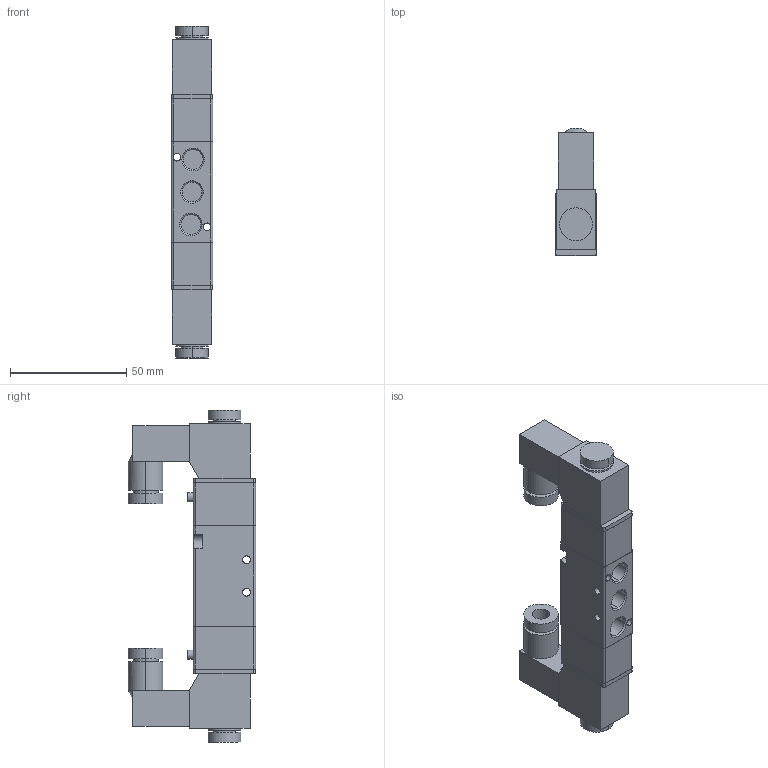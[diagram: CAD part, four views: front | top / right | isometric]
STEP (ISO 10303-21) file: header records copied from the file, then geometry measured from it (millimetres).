
FILE_DESCRIPTION (( 'STEP AP203' ), '1' );
FILE_NAME ('VB5-D01.STEP', '2020-04-15T16:58:58', ( '' ), ( '' ), 'SwSTEP 2.0', 'SolidWorks 2019', '' );
FILE_SCHEMA (( 'CONFIG_CONTROL_DESIGN' ));
Length unit declared in the file: millimetre
Products named in the file (1): VB5-D01
Bounding box: 18 x 55 x 143 mm (x, y, z)
Volume: 75320 mm3; surface area: 21423.3 mm2
Topology: 1 solids, 1 shells, 161 faces, 388 edges, 254 vertices
Faces by surface type: plane 75, cylinder 74, cone 12
Entity records: 4984 total; most frequent: CARTESIAN_POINT 969, DIRECTION 872, ORIENTED_EDGE 776, EDGE_CURVE 388, AXIS2_PLACEMENT_3D 326, VERTEX_POINT 254, LINE 220, VECTOR 220
